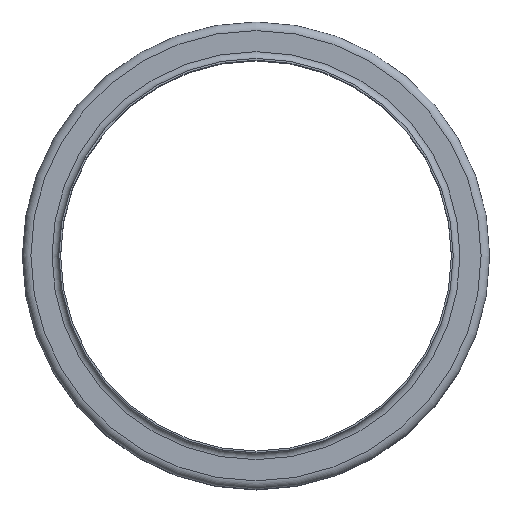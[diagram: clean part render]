
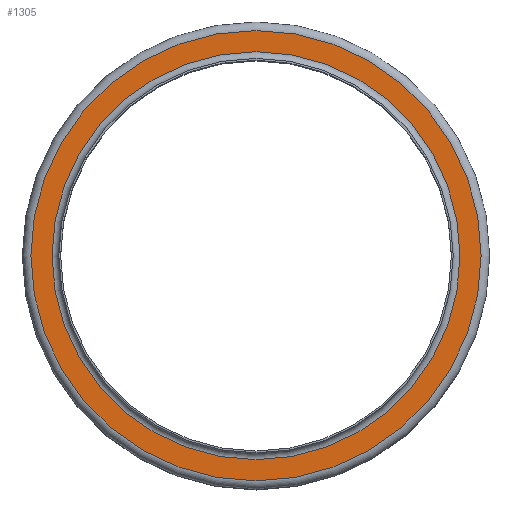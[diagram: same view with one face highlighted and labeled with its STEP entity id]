
A CAD part, top view. The second image highlights one B-rep face of the part: STEP entity #1305.
In plain terms, the highlighted planar face has unit normal (0, 0, 1).
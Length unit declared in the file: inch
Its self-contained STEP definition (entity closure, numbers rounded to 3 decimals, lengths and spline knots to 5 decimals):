
#130=FACE_BOUND('',#384,.T.);
#229=FACE_OUTER_BOUND('',#383,.T.);
#383=EDGE_LOOP('',(#1108));
#384=EDGE_LOOP('',(#1109));
#545=CIRCLE('',#1574,6.655);
#546=CIRCLE('',#1576,7.345);
#658=VERTEX_POINT('',#2470);
#659=VERTEX_POINT('',#2474);
#811=EDGE_CURVE('',#658,#658,#545,.T.);
#812=EDGE_CURVE('',#659,#659,#546,.T.);
#1108=ORIENTED_EDGE('',*,*,#812,.F.);
#1109=ORIENTED_EDGE('',*,*,#811,.T.);
#1206=PLANE('',#1575);
#1305=ADVANCED_FACE('',(#229,#130),#1206,.T.);
#1574=AXIS2_PLACEMENT_3D('',#2472,#2070,#2071);
#1575=AXIS2_PLACEMENT_3D('',#2473,#2072,#2073);
#1576=AXIS2_PLACEMENT_3D('',#2475,#2074,#2075);
#2070=DIRECTION('center_axis',(0.,0.,-1.));
#2071=DIRECTION('ref_axis',(1.,0.,0.));
#2072=DIRECTION('center_axis',(0.,0.,1.));
#2073=DIRECTION('ref_axis',(1.,0.,0.));
#2074=DIRECTION('center_axis',(0.,0.,-1.));
#2075=DIRECTION('ref_axis',(1.,0.,0.));
#2470=CARTESIAN_POINT('',(6.655,0.,-0.22));
#2472=CARTESIAN_POINT('Origin',(0.,0.,-0.22));
#2473=CARTESIAN_POINT('Origin',(0.,7.345,-0.22));
#2474=CARTESIAN_POINT('',(7.345,0.,-0.22));
#2475=CARTESIAN_POINT('Origin',(0.,0.,-0.22));
